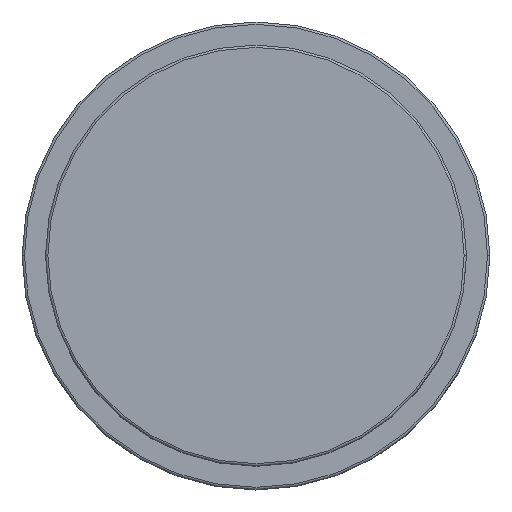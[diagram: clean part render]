
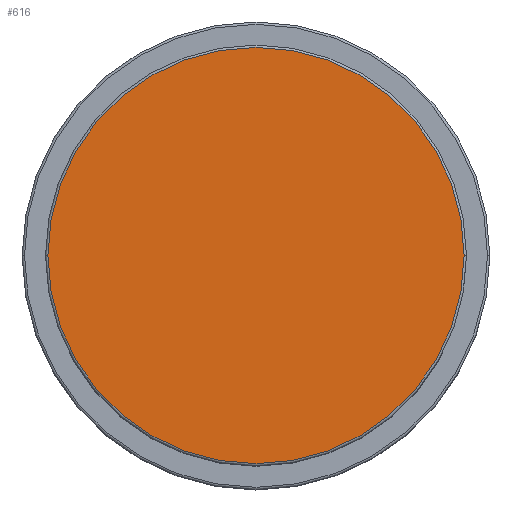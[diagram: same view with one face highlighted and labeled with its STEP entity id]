
A CAD part, top view. The second image highlights one B-rep face of the part: STEP entity #616.
In plain terms, the highlighted planar face has unit normal (0, 0, 1).
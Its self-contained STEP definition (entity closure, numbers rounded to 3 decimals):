
#74 = DIRECTION ( 'NONE',  ( 1., 0., 0. ) ) ;
#278 = CARTESIAN_POINT ( 'NONE',  ( 0., 0., 57. ) ) ;
#306 = VERTEX_POINT ( 'NONE', #1460 ) ;
#434 = CIRCLE ( 'NONE', #1068, 44.5 ) ;
#445 = FACE_OUTER_BOUND ( 'NONE', #855, .T. ) ;
#518 = ORIENTED_EDGE ( 'NONE', *, *, #1215, .T. ) ;
#581 = CIRCLE ( 'NONE', #1175, 44.5 ) ;
#616 = ADVANCED_FACE ( 'NONE', ( #445 ), #1297, .T. ) ;
#643 = VERTEX_POINT ( 'NONE', #1697 ) ;
#810 = EDGE_CURVE ( 'NONE', #306, #643, #581, .T. ) ;
#855 = EDGE_LOOP ( 'NONE', ( #518, #1335 ) ) ;
#869 = DIRECTION ( 'NONE',  ( 0., 0., 1. ) ) ;
#874 = CARTESIAN_POINT ( 'NONE',  ( 0., 0., 57. ) ) ;
#1040 = DIRECTION ( 'NONE',  ( 1., 0., 0. ) ) ;
#1068 = AXIS2_PLACEMENT_3D ( 'NONE', #1490, #1252, #1040 ) ;
#1152 = DIRECTION ( 'NONE',  ( 1., 0., 0. ) ) ;
#1175 = AXIS2_PLACEMENT_3D ( 'NONE', #278, #1556, #1152 ) ;
#1215 = EDGE_CURVE ( 'NONE', #643, #306, #434, .T. ) ;
#1252 = DIRECTION ( 'NONE',  ( 0., 0., 1. ) ) ;
#1297 = PLANE ( 'NONE',  #1565 ) ;
#1335 = ORIENTED_EDGE ( 'NONE', *, *, #810, .T. ) ;
#1460 = CARTESIAN_POINT ( 'NONE',  ( -44.5, 0., 57. ) ) ;
#1490 = CARTESIAN_POINT ( 'NONE',  ( 0., 0., 57. ) ) ;
#1556 = DIRECTION ( 'NONE',  ( 0., 0., 1. ) ) ;
#1565 = AXIS2_PLACEMENT_3D ( 'NONE', #874, #869, #74 ) ;
#1697 = CARTESIAN_POINT ( 'NONE',  ( 44.5, 0., 57. ) ) ;
